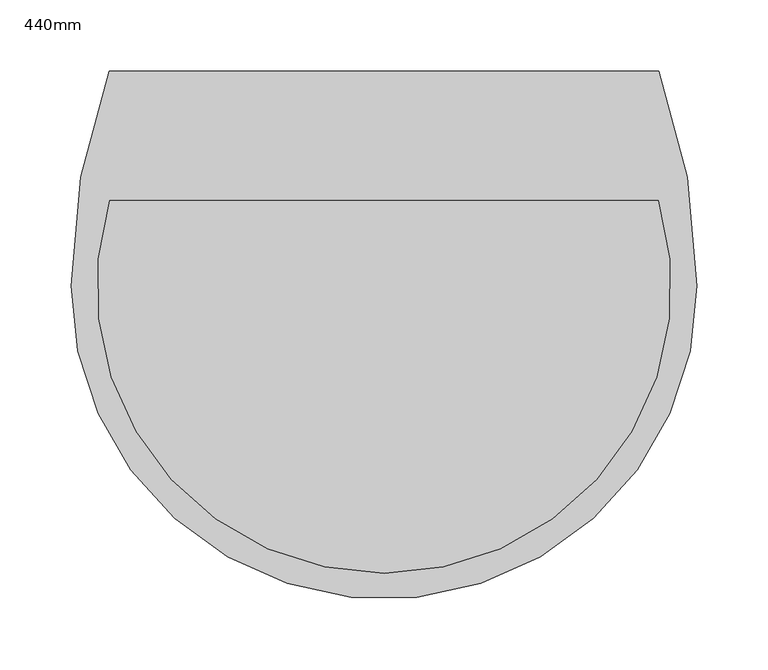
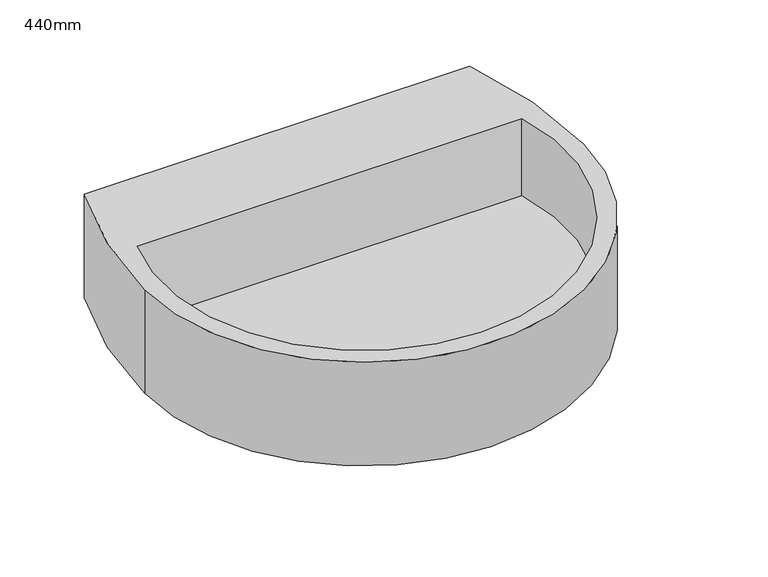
"""IFC4 building model written with IfcOpenShell, lengths in millimetres: flow terminal geometry, Sanitary_Sinks_Zeppelin-Rental-GmbH_Round_440 : 440mm."""

from ifc_helpers import new_model, si_unit, frame, origin, place, context, project, spatial, polyline, circle_curve, source, transform, mapped, element, save
from ifc_brep_helpers import plane_surface, cylinder_surface, revolved_surface, advanced_brep


def flow_terminal_440mm_dca6e4f9(model_context):
    return source(origin(), model_context, "Body", "AdvancedBrep", [
        advanced_brep(
        [(345.0, -186.352108, 850.0), (318.1495364, -35.0, 850.0), (-68.1495364, -35.0, 850.0), (-95.0, -186.352108, 850.0), (317.7947473, -126.0679028, 850.0), (-67.7947473, -126.0679028, 850.0), (345.0, -186.352108, 740.0), (-95.0, -186.352108, 740.0), (-68.1495364, -35.0, 740.0), (318.1495364, -35.0, 740.0), (317.7947473, -126.0679028, 768.1609063), (-67.7947473, -126.0679028, 768.1609063)],
        [
            (0, 1, circle_curve(frame((-95.0, -186.352108, 850.0), z_axis=(0.0, 0.0, 1.0), x_axis=(1.0, 0.0, 0.0)), 440.0)),
            (1, 2),
            (2, 3, circle_curve(frame((345.0, -186.352108, 850.0), z_axis=(0.0, 0.0, 1.0), x_axis=(1.0, 0.0, 0.0)), 440.0)),
            (3, 0, circle_curve(frame((125.0, -186.352108, 850.0), z_axis=(0.0, 0.0, 1.0), x_axis=(1.0, 0.0, 0.0)), 220.0)),
            (4, 5, circle_curve(frame((125.0, -186.352108, 850.0), z_axis=(0.0, 0.0, -1.0), x_axis=(1.0, 0.0, 0.0)), 202.0)),
            (5, 4),
            (6, 7, circle_curve(frame((125.0, -186.352108, 740.0), z_axis=(0.0, 0.0, -1.0), x_axis=(1.0, 0.0, 0.0)), 220.0)),
            (7, 8, circle_curve(frame((345.0, -186.352108, 740.0), z_axis=(0.0, 0.0, -1.0), x_axis=(1.0, 0.0, 0.0)), 440.0)),
            (8, 9),
            (9, 6, circle_curve(frame((-95.0, -186.352108, 740.0), z_axis=(0.0, 0.0, -1.0), x_axis=(1.0, 0.0, 0.0)), 440.0)),
            (10, 11),
            (11, 10, circle_curve(frame((125.0, -186.352108, 768.1609063), z_axis=(0.0, 0.0, 1.0), x_axis=(1.0, 0.0, 0.0)), 202.0)),
            (0, 6),
            (9, 1),
            (8, 2),
            (7, 3),
            (11, 5),
            (4, 10),
        ],
        [
            plane_surface(frame((345.0, -186.352108, 850.0), z_axis=(0.0, 0.0, 1.0), x_axis=(0.0, 1.0, 0.0))),
            plane_surface(frame((345.0, -186.352108, 740.0), z_axis=(0.0, 0.0, -1.0), x_axis=(0.0, -1.0, 0.0))),
            plane_surface(frame((327.0, -186.352108, 768.1609063), z_axis=(0.0, 0.0, 1.0), x_axis=(0.0, -1.0, 0.0))),
            cylinder_surface(frame((-95.0, -186.352108, 740.0), z_axis=(0.0, 0.0, 1.0), x_axis=(1.0, 0.0, 0.0)), 440.0),
            plane_surface(frame((318.1495364, -35.0, 850.0), z_axis=(0.0, 1.0, 0.0), x_axis=(0.0, 0.0, -1.0))),
            cylinder_surface(frame((345.0, -186.352108, 740.0), z_axis=(0.0, 0.0, 1.0), x_axis=(1.0, 0.0, 0.0)), 440.0),
            cylinder_surface(frame((125.0, -186.352108, 740.0), z_axis=(0.0, 0.0, 1.0), x_axis=(1.0, 0.0, 0.0)), 220.0),
            revolved_surface(polyline([(327.0, -186.352108, 768.1609063), (327.0, -186.352108, 850.0)]), (125.0, -186.352108, 864.30159), (0.0, 0.0, -1.0)),
            plane_surface(frame((-67.7947473, -126.0679028, 768.1609063), z_axis=(0.0, -1.0, 0.0), x_axis=(0.0, 0.0, 1.0))),
        ],
        [
            (0, [[1, 2, 3, 4], [5, 6]]),
            (1, [[7, 8, 9, 10]]),
            (2, [[11, 12]]),
            (3, [[-1, 13, -10, 14]]),
            (4, [[-2, -14, -9, 15]]),
            (5, [[-3, -15, -8, 16]]),
            (6, [[-4, -16, -7, -13]]),
            (7, [[-12, 17, -5, 18]]),
            (8, [[-11, -18, -6, -17]]),
        ],
    ),
    ])


if __name__ == "__main__":
    model = new_model("IFC4")
    model_context = context("Model", 3, world=origin())
    ifc_project = project(units=[si_unit("LENGTHUNIT", "METRE", prefix="MILLI")], contexts=[model_context])
    site = spatial("IfcSite", under=ifc_project)
    building = spatial("IfcBuilding", under=site)
    placement = place(None, origin())
    flow_terminal_440mm_shape = flow_terminal_440mm_dca6e4f9(model_context)
    element("IfcFlowTerminal", 1, ObjectType="Sanitary_Sinks_Zeppelin-Rental-GmbH_Round_440 : 440mm", at=placement, inside=building, context=model_context, shape_type="MappedRepresentation", body=[
        mapped(flow_terminal_440mm_shape, transform((0.0, 0.0, 0.0), x_axis=(1.0, 0.0, 0.0), y_axis=(0.0, 1.0, 0.0), z_axis=(0.0, 0.0, 1.0))),
    ])
    save(model, "model.ifc")
